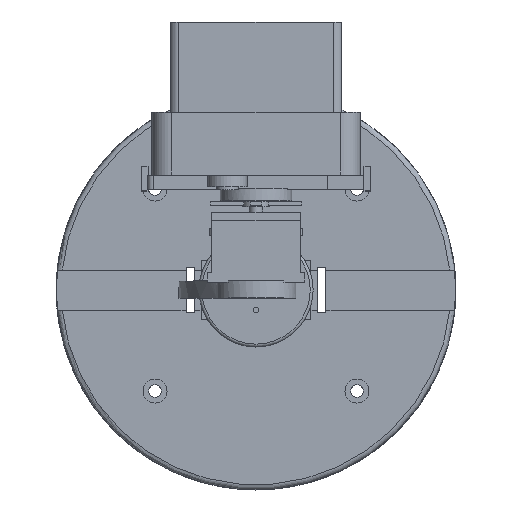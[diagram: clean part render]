
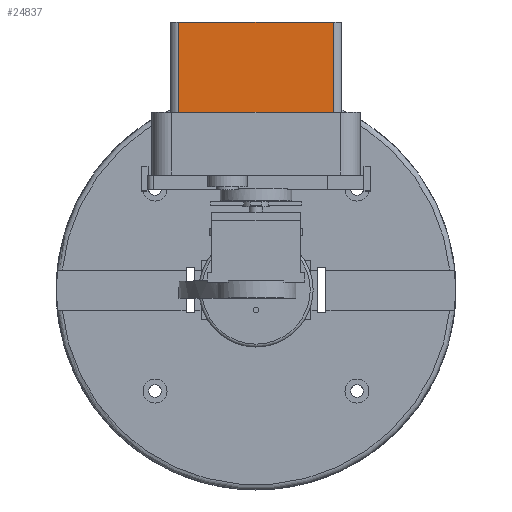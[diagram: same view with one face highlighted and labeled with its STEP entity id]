
A CAD part, top view. The second image highlights one B-rep face of the part: STEP entity #24837.
In plain terms, the highlighted planar face has unit normal (0, 0, 1).
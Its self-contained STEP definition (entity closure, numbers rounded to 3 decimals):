
#24207 = PLANE('',#24208);
#24208 = AXIS2_PLACEMENT_3D('',#24209,#24210,#24211);
#24209 = CARTESIAN_POINT('',(-30.,49.,90.));
#24210 = DIRECTION('',(0.,1.,0.));
#24211 = DIRECTION('',(0.,0.,1.));
#24263 = PLANE('',#24264);
#24264 = AXIS2_PLACEMENT_3D('',#24265,#24266,#24267);
#24265 = CARTESIAN_POINT('',(-30.,93.64,90.));
#24266 = DIRECTION('',(0.,1.,0.));
#24267 = DIRECTION('',(0.,0.,1.));
#24289 = CYLINDRICAL_SURFACE('',#24290,3.);
#24290 = AXIS2_PLACEMENT_3D('',#24291,#24292,#24293);
#24291 = CARTESIAN_POINT('',(-27.,49.,99.));
#24292 = DIRECTION('',(0.,1.,0.));
#24293 = DIRECTION('',(-1.,0.,0.));
#24362 = VERTEX_POINT('',#24363);
#24363 = CARTESIAN_POINT('',(-27.,49.,102.));
#24385 = EDGE_CURVE('',#24362,#24386,#24388,.T.);
#24386 = VERTEX_POINT('',#24387);
#24387 = CARTESIAN_POINT('',(27.,49.,102.));
#24388 = SURFACE_CURVE('',#24389,(#24393,#24400),.PCURVE_S1.);
#24389 = LINE('',#24390,#24391);
#24390 = CARTESIAN_POINT('',(-30.,49.,102.));
#24391 = VECTOR('',#24392,1.);
#24392 = DIRECTION('',(1.,0.,0.));
#24393 = PCURVE('',#24207,#24394);
#24394 = DEFINITIONAL_REPRESENTATION('',(#24395),#24399);
#24395 = LINE('',#24396,#24397);
#24396 = CARTESIAN_POINT('',(12.,0.));
#24397 = VECTOR('',#24398,1.);
#24398 = DIRECTION('',(0.,1.));
#24399 = ( GEOMETRIC_REPRESENTATION_CONTEXT(2) 
PARAMETRIC_REPRESENTATION_CONTEXT() REPRESENTATION_CONTEXT('2D SPACE',''
  ) );
#24400 = PCURVE('',#24401,#24406);
#24401 = PLANE('',#24402);
#24402 = AXIS2_PLACEMENT_3D('',#24403,#24404,#24405);
#24403 = CARTESIAN_POINT('',(-30.,49.,102.));
#24404 = DIRECTION('',(0.,0.,1.));
#24405 = DIRECTION('',(1.,0.,0.));
#24406 = DEFINITIONAL_REPRESENTATION('',(#24407),#24411);
#24407 = LINE('',#24408,#24409);
#24408 = CARTESIAN_POINT('',(0.,0.));
#24409 = VECTOR('',#24410,1.);
#24410 = DIRECTION('',(1.,0.));
#24411 = ( GEOMETRIC_REPRESENTATION_CONTEXT(2) 
PARAMETRIC_REPRESENTATION_CONTEXT() REPRESENTATION_CONTEXT('2D SPACE',''
  ) );
#24434 = CYLINDRICAL_SURFACE('',#24435,3.);
#24435 = AXIS2_PLACEMENT_3D('',#24436,#24437,#24438);
#24436 = CARTESIAN_POINT('',(27.,49.,99.));
#24437 = DIRECTION('',(0.,1.,0.));
#24438 = DIRECTION('',(1.,0.,-0.));
#24559 = EDGE_CURVE('',#24362,#24560,#24562,.T.);
#24560 = VERTEX_POINT('',#24561);
#24561 = CARTESIAN_POINT('',(-27.,93.64,102.));
#24562 = SURFACE_CURVE('',#24563,(#24567,#24574),.PCURVE_S1.);
#24563 = LINE('',#24564,#24565);
#24564 = CARTESIAN_POINT('',(-27.,49.,102.));
#24565 = VECTOR('',#24566,1.);
#24566 = DIRECTION('',(0.,1.,0.));
#24567 = PCURVE('',#24289,#24568);
#24568 = DEFINITIONAL_REPRESENTATION('',(#24569),#24573);
#24569 = LINE('',#24570,#24571);
#24570 = CARTESIAN_POINT('',(1.571,0.));
#24571 = VECTOR('',#24572,1.);
#24572 = DIRECTION('',(0.,1.));
#24573 = ( GEOMETRIC_REPRESENTATION_CONTEXT(2) 
PARAMETRIC_REPRESENTATION_CONTEXT() REPRESENTATION_CONTEXT('2D SPACE',''
  ) );
#24574 = PCURVE('',#24401,#24575);
#24575 = DEFINITIONAL_REPRESENTATION('',(#24576),#24580);
#24576 = LINE('',#24577,#24578);
#24577 = CARTESIAN_POINT('',(3.,0.));
#24578 = VECTOR('',#24579,1.);
#24579 = DIRECTION('',(0.,1.));
#24580 = ( GEOMETRIC_REPRESENTATION_CONTEXT(2) 
PARAMETRIC_REPRESENTATION_CONTEXT() REPRESENTATION_CONTEXT('2D SPACE',''
  ) );
#24634 = EDGE_CURVE('',#24560,#24635,#24637,.T.);
#24635 = VERTEX_POINT('',#24636);
#24636 = CARTESIAN_POINT('',(27.,93.64,102.));
#24637 = SURFACE_CURVE('',#24638,(#24642,#24649),.PCURVE_S1.);
#24638 = LINE('',#24639,#24640);
#24639 = CARTESIAN_POINT('',(-30.,93.64,102.));
#24640 = VECTOR('',#24641,1.);
#24641 = DIRECTION('',(1.,0.,0.));
#24642 = PCURVE('',#24263,#24643);
#24643 = DEFINITIONAL_REPRESENTATION('',(#24644),#24648);
#24644 = LINE('',#24645,#24646);
#24645 = CARTESIAN_POINT('',(12.,0.));
#24646 = VECTOR('',#24647,1.);
#24647 = DIRECTION('',(0.,1.));
#24648 = ( GEOMETRIC_REPRESENTATION_CONTEXT(2) 
PARAMETRIC_REPRESENTATION_CONTEXT() REPRESENTATION_CONTEXT('2D SPACE',''
  ) );
#24649 = PCURVE('',#24401,#24650);
#24650 = DEFINITIONAL_REPRESENTATION('',(#24651),#24655);
#24651 = LINE('',#24652,#24653);
#24652 = CARTESIAN_POINT('',(0.,44.64));
#24653 = VECTOR('',#24654,1.);
#24654 = DIRECTION('',(1.,0.));
#24655 = ( GEOMETRIC_REPRESENTATION_CONTEXT(2) 
PARAMETRIC_REPRESENTATION_CONTEXT() REPRESENTATION_CONTEXT('2D SPACE',''
  ) );
#24815 = EDGE_CURVE('',#24386,#24635,#24816,.T.);
#24816 = SURFACE_CURVE('',#24817,(#24821,#24828),.PCURVE_S1.);
#24817 = LINE('',#24818,#24819);
#24818 = CARTESIAN_POINT('',(27.,49.,102.));
#24819 = VECTOR('',#24820,1.);
#24820 = DIRECTION('',(0.,1.,0.));
#24821 = PCURVE('',#24434,#24822);
#24822 = DEFINITIONAL_REPRESENTATION('',(#24823),#24827);
#24823 = LINE('',#24824,#24825);
#24824 = CARTESIAN_POINT('',(-1.571,0.));
#24825 = VECTOR('',#24826,1.);
#24826 = DIRECTION('',(-0.,1.));
#24827 = ( GEOMETRIC_REPRESENTATION_CONTEXT(2) 
PARAMETRIC_REPRESENTATION_CONTEXT() REPRESENTATION_CONTEXT('2D SPACE',''
  ) );
#24828 = PCURVE('',#24401,#24829);
#24829 = DEFINITIONAL_REPRESENTATION('',(#24830),#24834);
#24830 = LINE('',#24831,#24832);
#24831 = CARTESIAN_POINT('',(57.,0.));
#24832 = VECTOR('',#24833,1.);
#24833 = DIRECTION('',(0.,1.));
#24834 = ( GEOMETRIC_REPRESENTATION_CONTEXT(2) 
PARAMETRIC_REPRESENTATION_CONTEXT() REPRESENTATION_CONTEXT('2D SPACE',''
  ) );
#24837 = ADVANCED_FACE('',(#24838),#24401,.T.);
#24838 = FACE_BOUND('',#24839,.T.);
#24839 = EDGE_LOOP('',(#24840,#24841,#24842,#24843));
#24840 = ORIENTED_EDGE('',*,*,#24634,.F.);
#24841 = ORIENTED_EDGE('',*,*,#24559,.F.);
#24842 = ORIENTED_EDGE('',*,*,#24385,.T.);
#24843 = ORIENTED_EDGE('',*,*,#24815,.T.);
